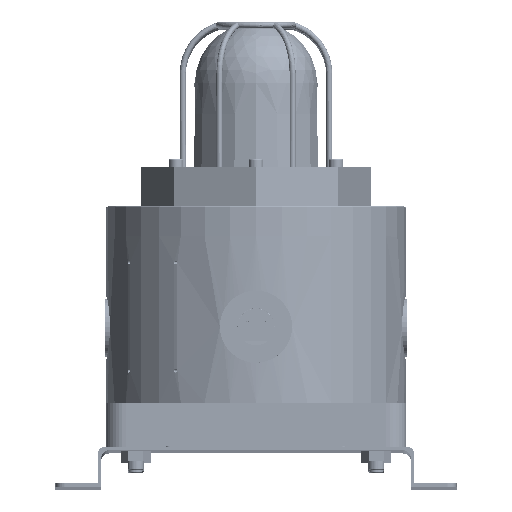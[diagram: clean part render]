
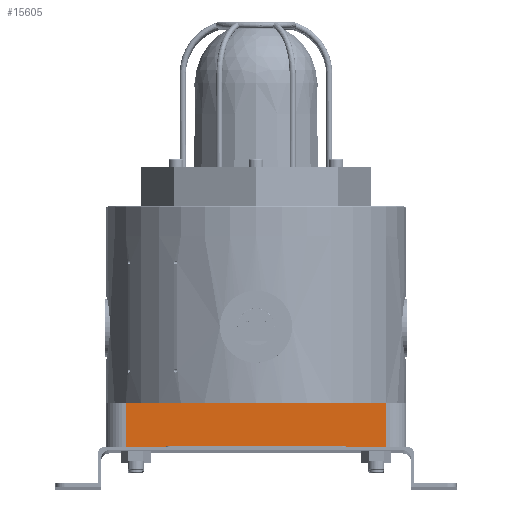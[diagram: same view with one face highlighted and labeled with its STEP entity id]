
A CAD part, top view. The second image highlights one B-rep face of the part: STEP entity #15605.
In plain terms, the highlighted planar face has unit normal (0, 0, 1).
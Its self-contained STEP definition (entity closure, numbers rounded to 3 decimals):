
#5667=DIRECTION('',(1.,0.,0.));
#5668=VECTOR('',#5667,130.);
#5669=CARTESIAN_POINT('',(-65.,0.,75.));
#5670=LINE('',#5669,#5668);
#5727=DIRECTION('',(0.,-1.,0.));
#5728=VECTOR('',#5727,22.);
#5729=CARTESIAN_POINT('',(65.,22.,75.));
#5730=LINE('',#5729,#5728);
#5754=DIRECTION('',(0.,-1.,0.));
#5755=VECTOR('',#5754,22.);
#5756=CARTESIAN_POINT('',(-65.,22.,75.));
#5757=LINE('',#5756,#5755);
#5809=DIRECTION('',(1.,0.,0.));
#5810=VECTOR('',#5809,65.);
#5811=CARTESIAN_POINT('',(0.,22.,75.));
#5812=LINE('',#5811,#5810);
#5844=DIRECTION('',(1.,0.,0.));
#5845=VECTOR('',#5844,65.);
#5846=CARTESIAN_POINT('',(-65.,22.,75.));
#5847=LINE('',#5846,#5845);
#13263=CARTESIAN_POINT('',(0.,22.,75.));
#13264=VERTEX_POINT('',#13263);
#13269=CARTESIAN_POINT('',(65.,22.,75.));
#13270=CARTESIAN_POINT('',(65.,0.,75.));
#13271=VERTEX_POINT('',#13269);
#13272=VERTEX_POINT('',#13270);
#13289=CARTESIAN_POINT('',(-65.,22.,75.));
#13290=VERTEX_POINT('',#13289);
#13291=CARTESIAN_POINT('',(-65.,0.,75.));
#13292=VERTEX_POINT('',#13291);
#15590=CARTESIAN_POINT('',(-75.,0.,75.));
#15591=DIRECTION('',(0.,0.,1.));
#15592=DIRECTION('',(1.,0.,0.));
#15593=AXIS2_PLACEMENT_3D('',#15590,#15591,#15592);
#15594=PLANE('',#15593);
#15595=ORIENTED_EDGE('',*,*,#15580,.T.);
#15596=ORIENTED_EDGE('',*,*,#15528,.F.);
#15598=ORIENTED_EDGE('',*,*,#15597,.F.);
#15600=ORIENTED_EDGE('',*,*,#15599,.T.);
#15602=ORIENTED_EDGE('',*,*,#15601,.T.);
#15603=EDGE_LOOP('',(#15595,#15596,#15598,#15600,#15602));
#15604=FACE_OUTER_BOUND('',#15603,.F.);
#15605=ADVANCED_FACE('',(#15604),#15594,.T.);
#15528=EDGE_CURVE('',#13292,#13272,#5670,.T.);
#15580=EDGE_CURVE('',#13271,#13272,#5730,.T.);
#15597=EDGE_CURVE('',#13290,#13292,#5757,.T.);
#15599=EDGE_CURVE('',#13290,#13264,#5847,.T.);
#15601=EDGE_CURVE('',#13264,#13271,#5812,.T.);
